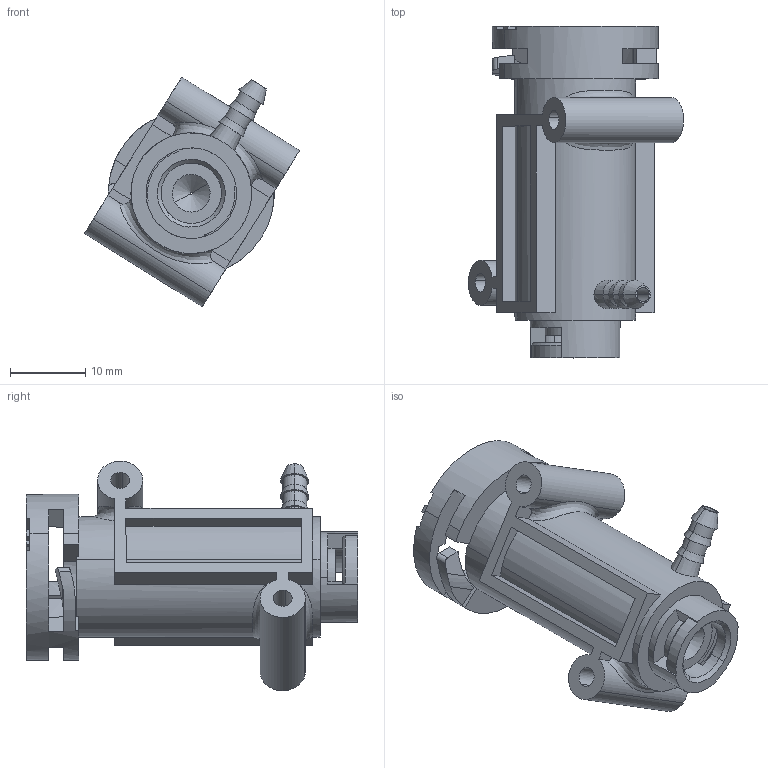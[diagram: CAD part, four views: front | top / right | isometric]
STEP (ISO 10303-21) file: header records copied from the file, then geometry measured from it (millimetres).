
FILE_DESCRIPTION(('CATIA V5 STEP Exchange'),'2;1');
FILE_NAME('C:\Users\Administrator\Desktop\YJ-BPC0010036-2孔.stp','2021-12-16T08:44:44+00:00',('none'),('none'),'CATIA Version 5 Release 20 GA (IN-10)','CATIA V5 STEP AP214','none');
FILE_SCHEMA(('AUTOMOTIVE_DESIGN { 1 0 10303 214 1 1 1 1 }'));
Length unit declared in the file: millimetre
Products named in the file (1): 573.4601.02_V1
Bounding box: 28.54 x 44 x 30.46 mm (x, y, z)
Volume: 5557.8 mm3; surface area: 6283 mm2
Topology: 1 solids, 1 shells, 179 faces, 605 edges, 423 vertices
Faces by surface type: plane 86, cylinder 54, cone 25, bspline 8, torus 4, sphere 2
Entity records: 8982 total; most frequent: CARTESIAN_POINT 3159, ORIENTED_EDGE 1196, DIRECTION 710, EDGE_CURVE 598, VERTEX_POINT 423, AXIS2_PLACEMENT_3D 311, VECTOR 235, LINE 235
